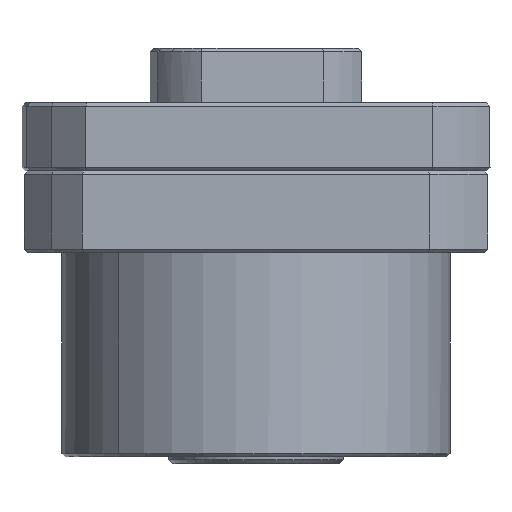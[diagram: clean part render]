
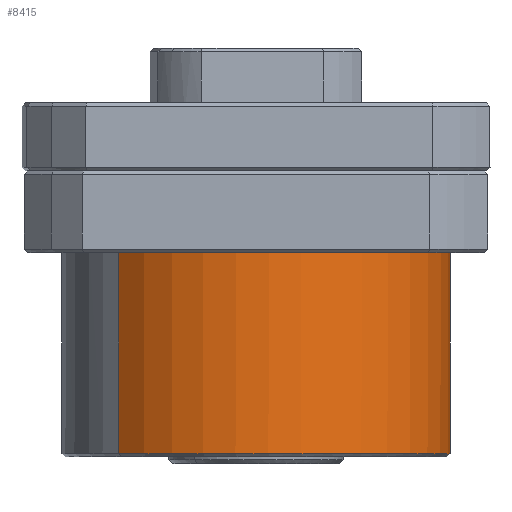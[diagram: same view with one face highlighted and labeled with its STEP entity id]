
A CAD part, front view. The second image highlights one B-rep face of the part: STEP entity #8415.
In plain terms, the highlighted cylindrical face has radius 28.5 mm (diameter 57 mm), a partial arc.
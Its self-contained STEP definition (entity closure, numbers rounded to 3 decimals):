
#43 = EDGE_CURVE ( 'NONE', #9029, #14028, #3663, .T. ) ;
#69 = CARTESIAN_POINT ( 'NONE',  ( -5.442, -12.739, -20.5 ) ) ;
#145 = CARTESIAN_POINT ( 'NONE',  ( 7.321, -20.175, -20.5 ) ) ;
#214 = CARTESIAN_POINT ( 'NONE',  ( 36.182, -11.42, -20.5 ) ) ;
#254 = CARTESIAN_POINT ( 'NONE',  ( 10.985, -20.904, 9. ) ) ;
#392 = CARTESIAN_POINT ( 'NONE',  ( 39.446, -6.865, 9. ) ) ;
#431 = ORIENTED_EDGE ( 'NONE', *, *, #8072, .T. ) ;
#1168 = CARTESIAN_POINT ( 'NONE',  ( 37.371, -9.971, -20.5 ) ) ;
#1242 = CARTESIAN_POINT ( 'NONE',  ( 40.327, 20.043, -20.5 ) ) ;
#1347 = CARTESIAN_POINT ( 'NONE',  ( 42.297, 0.019, 9. ) ) ;
#1385 = CARTESIAN_POINT ( 'NONE',  ( -4.123, -14.058, -20.5 ) ) ;
#1424 = CARTESIAN_POINT ( 'NONE',  ( 33.54, -14.062, 9. ) ) ;
#1460 = CARTESIAN_POINT ( 'NONE',  ( 34.863, 27.566, -20.5 ) ) ;
#1643 = CARTESIAN_POINT ( 'NONE',  ( 34.863, 27.566, 9. ) ) ;
#1907 = FACE_OUTER_BOUND ( 'NONE', #5421, .T. ) ;
#1976 = CARTESIAN_POINT ( 'NONE',  ( 34.863, 27.566, 9. ) ) ;
#2233 = ORIENTED_EDGE ( 'NONE', *, *, #3903, .T. ) ;
#2339 = CARTESIAN_POINT ( 'NONE',  ( 36.182, 26.247, -20.5 ) ) ;
#2342 = CARTESIAN_POINT ( 'NONE',  ( -5.442, -12.739, -20.5 ) ) ;
#2464 = CARTESIAN_POINT ( 'NONE',  ( 16.581, -21.087, 9. ) ) ;
#2533 = CARTESIAN_POINT ( 'NONE',  ( 32.099, -15.244, 9. ) ) ;
#2563 = CARTESIAN_POINT ( 'NONE',  ( 22.1, -20.175, -20.5 ) ) ;
#2675 = CARTESIAN_POINT ( 'NONE',  ( 18.435, -20.904, 9. ) ) ;
#2783 = B_SPLINE_CURVE_WITH_KNOTS ( 'NONE', 3,
 ( #13697, #5019, #8308, #11666 ),
 .UNSPECIFIED., .F., .F.,
 ( 4, 4 ),
 ( 0., 1. ),
 .UNSPECIFIED. ) ;
#3193 = EDGE_CURVE ( 'NONE', #11361, #13513, #8545, .T. ) ;
#3454 = CARTESIAN_POINT ( 'NONE',  ( -2.675, -15.247, -20.5 ) ) ;
#3501 = CARTESIAN_POINT ( 'NONE',  ( -5.442, -12.739, 9. ) ) ;
#3523 = CARTESIAN_POINT ( 'NONE',  ( 0.427, -17.32, -20.5 ) ) ;
#3569 = CARTESIAN_POINT ( 'NONE',  ( -2.679, -15.244, 9. ) ) ;
#3603 = CARTESIAN_POINT ( 'NONE',  ( 32.095, -15.247, -20.5 ) ) ;
#3663 = B_SPLINE_CURVE_WITH_KNOTS ( 'NONE', 3,
 ( #8019, #13555, #3569, #12748, #4739, #12460, #4951, #254, #8096, #2464, #2675, #12536, #13704, #12605, #12461, #2533, #1424, #6118, #10417, #392, #6925, #7207, #1347, #6994, #9399, #4879, #9319, #13848, #11670, #11603, #11391, #12749, #6045, #1643 ),
 .UNSPECIFIED., .F., .F.,
 ( 4, 2, 2, 2, 2, 2, 2, 2, 2, 2, 2, 2, 2, 2, 2, 2, 4 ),
 ( 0., 0.063, 0.125, 0.188, 0.25, 0.313, 0.375, 0.438, 0.5, 0.563, 0.625, 0.688, 0.75, 0.813, 0.875, 0.938, 1. ),
 .UNSPECIFIED. ) ;
#3749 = CARTESIAN_POINT ( 'NONE',  ( 12.845, -21.087, -20.5 ) ) ;
#3903 = EDGE_CURVE ( 'NONE', #9029, #11361, #12710, .T. ) ;
#4542 = CARTESIAN_POINT ( 'NONE',  ( 41.754, -1.77, -20.5 ) ) ;
#4619 = CARTESIAN_POINT ( 'NONE',  ( 23.893, -19.631, -20.5 ) ) ;
#4692 = CARTESIAN_POINT ( 'NONE',  ( 39.443, -6.87, -20.5 ) ) ;
#4739 = CARTESIAN_POINT ( 'NONE',  ( 2.075, -18.201, 9. ) ) ;
#4840 = CARTESIAN_POINT ( 'NONE',  ( 40.327, -5.217, -20.5 ) ) ;
#4879 = CARTESIAN_POINT ( 'NONE',  ( 43.21, 9.284, 9. ) ) ;
#4951 = CARTESIAN_POINT ( 'NONE',  ( 7.315, -20.174, 9. ) ) ;
#5019 = CARTESIAN_POINT ( 'NONE',  ( 34.863, 27.566, -10.667 ) ) ;
#5214 = DIRECTION ( 'NONE',  ( 0., 0., -1. ) ) ;
#5356 = CYLINDRICAL_SURFACE ( 'NONE', #6119, 28.5 ) ;
#5421 = EDGE_LOOP ( 'NONE', ( #431, #13596, #2233, #5568 ) ) ;
#5568 = ORIENTED_EDGE ( 'NONE', *, *, #3193, .T. ) ;
#5655 = CARTESIAN_POINT ( 'NONE',  ( 43.21, 9.279, -20.5 ) ) ;
#6045 = CARTESIAN_POINT ( 'NONE',  ( 36.186, 26.242, 9. ) ) ;
#6118 = CARTESIAN_POINT ( 'NONE',  ( 36.185, -11.417, 9. ) ) ;
#6119 = AXIS2_PLACEMENT_3D ( 'NONE', #10909, #5214, #6304 ) ;
#6304 = DIRECTION ( 'NONE',  ( -0.707, -0.707, 0. ) ) ;
#6814 = CARTESIAN_POINT ( 'NONE',  ( 43.026, 3.683, -20.5 ) ) ;
#6925 = CARTESIAN_POINT ( 'NONE',  ( 40.325, -5.221, 9. ) ) ;
#6994 = CARTESIAN_POINT ( 'NONE',  ( 43.027, 3.688, 9. ) ) ;
#7207 = CARTESIAN_POINT ( 'NONE',  ( 41.757, -1.765, 9. ) ) ;
#7455 = CARTESIAN_POINT ( 'NONE',  ( -5.442, -12.739, 9. ) ) ;
#7898 = CARTESIAN_POINT ( 'NONE',  ( 16.575, -21.087, -20.5 ) ) ;
#7947 = CARTESIAN_POINT ( 'NONE',  ( -5.442, -12.739, -0.833 ) ) ;
#7970 = CARTESIAN_POINT ( 'NONE',  ( 27.34, -18.203, -20.5 ) ) ;
#8019 = CARTESIAN_POINT ( 'NONE',  ( -5.442, -12.739, 9. ) ) ;
#8051 = CARTESIAN_POINT ( 'NONE',  ( 43.026, 11.144, -20.5 ) ) ;
#8072 = EDGE_CURVE ( 'NONE', #13513, #14028, #2783, .T. ) ;
#8096 = CARTESIAN_POINT ( 'NONE',  ( 12.839, -21.087, 9. ) ) ;
#8104 = CARTESIAN_POINT ( 'NONE',  ( -5.442, -12.739, -20.5 ) ) ;
#8308 = CARTESIAN_POINT ( 'NONE',  ( 34.863, 27.566, -0.833 ) ) ;
#8415 = ADVANCED_FACE ( 'NONE', ( #1907 ), #5356, .T. ) ;
#8545 = B_SPLINE_CURVE_WITH_KNOTS ( 'NONE', 3,
 ( #69, #1385, #3454, #3523, #10234, #10092, #145, #13514, #3749, #7898, #10161, #2563, #4619, #7970, #11423, #3603, #12420, #214, #1168, #4692, #4840, #4542, #11489, #6814, #8988, #5655, #8051, #13447, #9134, #1242, #12345, #13594, #2339, #1460 ),
 .UNSPECIFIED., .F., .F.,
 ( 4, 2, 2, 2, 2, 2, 2, 2, 2, 2, 2, 2, 2, 2, 2, 2, 4 ),
 ( 0., 0.063, 0.125, 0.188, 0.25, 0.313, 0.375, 0.438, 0.5, 0.563, 0.625, 0.688, 0.75, 0.813, 0.875, 0.938, 1. ),
 .UNSPECIFIED. ) ;
#8988 = CARTESIAN_POINT ( 'NONE',  ( 43.21, 5.548, -20.5 ) ) ;
#9029 = VERTEX_POINT ( 'NONE', #7455 ) ;
#9134 = CARTESIAN_POINT ( 'NONE',  ( 41.754, 16.596, -20.5 ) ) ;
#9311 = CARTESIAN_POINT ( 'NONE',  ( 34.863, 27.566, -20.5 ) ) ;
#9319 = CARTESIAN_POINT ( 'NONE',  ( 43.027, 11.139, 9. ) ) ;
#9399 = CARTESIAN_POINT ( 'NONE',  ( 43.21, 5.543, 9. ) ) ;
#10092 = CARTESIAN_POINT ( 'NONE',  ( 5.527, -19.631, -20.5 ) ) ;
#10161 = CARTESIAN_POINT ( 'NONE',  ( 18.441, -20.903, -20.5 ) ) ;
#10234 = CARTESIAN_POINT ( 'NONE',  ( 2.08, -18.203, -20.5 ) ) ;
#10351 = CARTESIAN_POINT ( 'NONE',  ( -5.442, -12.739, -10.667 ) ) ;
#10417 = CARTESIAN_POINT ( 'NONE',  ( 37.368, -9.976, 9. ) ) ;
#10909 = CARTESIAN_POINT ( 'NONE',  ( 14.71, 7.413, 9. ) ) ;
#11361 = VERTEX_POINT ( 'NONE', #2342 ) ;
#11391 = CARTESIAN_POINT ( 'NONE',  ( 39.446, 21.691, 9. ) ) ;
#11423 = CARTESIAN_POINT ( 'NONE',  ( 28.993, -17.32, -20.5 ) ) ;
#11489 = CARTESIAN_POINT ( 'NONE',  ( 42.299, 0.024, -20.5 ) ) ;
#11603 = CARTESIAN_POINT ( 'NONE',  ( 40.325, 20.048, 9. ) ) ;
#11666 = CARTESIAN_POINT ( 'NONE',  ( 34.863, 27.566, 9. ) ) ;
#11670 = CARTESIAN_POINT ( 'NONE',  ( 41.756, 16.592, 9. ) ) ;
#12345 = CARTESIAN_POINT ( 'NONE',  ( 39.443, 21.696, -20.5 ) ) ;
#12420 = CARTESIAN_POINT ( 'NONE',  ( 33.544, -14.058, -20.5 ) ) ;
#12460 = CARTESIAN_POINT ( 'NONE',  ( 5.532, -19.633, 9. ) ) ;
#12461 = CARTESIAN_POINT ( 'NONE',  ( 28.988, -17.323, 9. ) ) ;
#12536 = CARTESIAN_POINT ( 'NONE',  ( 22.105, -20.174, 9. ) ) ;
#12605 = CARTESIAN_POINT ( 'NONE',  ( 27.345, -18.202, 9. ) ) ;
#12710 = B_SPLINE_CURVE_WITH_KNOTS ( 'NONE', 3,
 ( #3501, #7947, #10351, #8104 ),
 .UNSPECIFIED., .F., .F.,
 ( 4, 4 ),
 ( 0., 1. ),
 .UNSPECIFIED. ) ;
#12748 = CARTESIAN_POINT ( 'NONE',  ( 0.432, -17.323, 9. ) ) ;
#12749 = CARTESIAN_POINT ( 'NONE',  ( 37.368, 24.803, 9. ) ) ;
#13447 = CARTESIAN_POINT ( 'NONE',  ( 42.299, 14.803, -20.5 ) ) ;
#13513 = VERTEX_POINT ( 'NONE', #9311 ) ;
#13514 = CARTESIAN_POINT ( 'NONE',  ( 10.98, -20.903, -20.5 ) ) ;
#13555 = CARTESIAN_POINT ( 'NONE',  ( -4.119, -14.062, 9. ) ) ;
#13594 = CARTESIAN_POINT ( 'NONE',  ( 37.371, 24.798, -20.5 ) ) ;
#13596 = ORIENTED_EDGE ( 'NONE', *, *, #43, .F. ) ;
#13697 = CARTESIAN_POINT ( 'NONE',  ( 34.863, 27.566, -20.5 ) ) ;
#13704 = CARTESIAN_POINT ( 'NONE',  ( 23.888, -19.633, 9. ) ) ;
#13848 = CARTESIAN_POINT ( 'NONE',  ( 42.298, 14.808, 9. ) ) ;
#14028 = VERTEX_POINT ( 'NONE', #1976 ) ;
